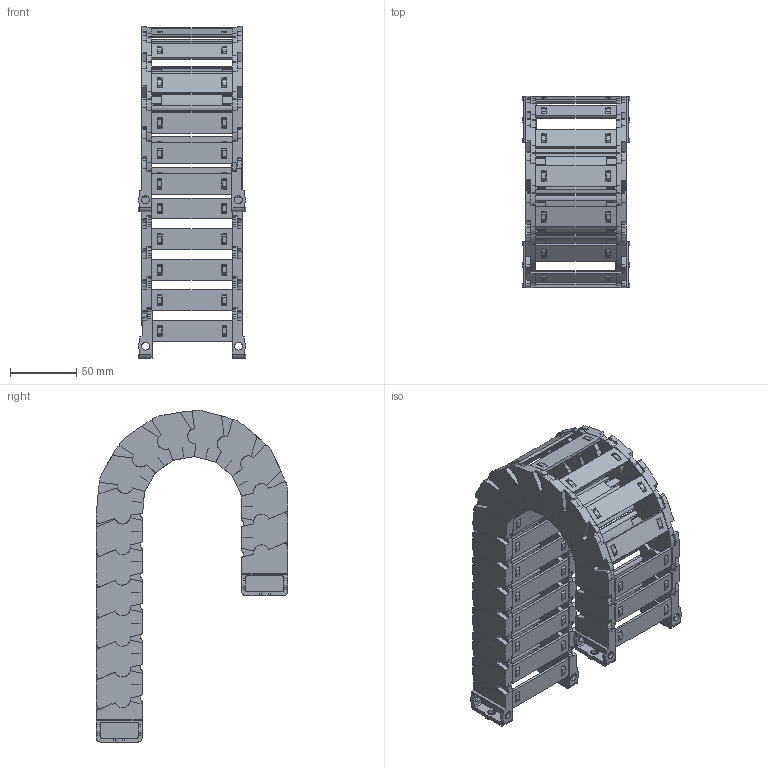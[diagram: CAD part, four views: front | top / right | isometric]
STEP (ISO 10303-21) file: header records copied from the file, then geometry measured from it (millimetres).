
FILE_DESCRIPTION((''),'2;1');
FILE_NAME('JY-25X60-R55_ASM','2022-05-07T10:10:49',('admin'),(''),'CREO PARAMETRIC BY PTC INC, 2021164','CREO PARAMETRIC BY PTC INC, 2021164','');
FILE_SCHEMA(('CONFIG_CONTROL_DESIGN','GEOMETRIC_VALIDATION_PROPERTIES_MIM'));
Length unit declared in the file: millimetre
Products named in the file (11): 25XL-L; 25-35XL-YP; 25XL-R; ASM0001_ASM; 25-LTT-A-L; 25-LTT-A-R; 25XL-LTT-A_ASM; 25-LTT-B-L; 25-LTT-B-R; 25XL-LTT-B_ASM; JY-25X60-R55_ASM
Assembly tree (29 placements, depth 3):
  JY-25X60-R55_ASM
    ASM0001_ASM  x15
      25XL-L
      25-35XL-YP
      25XL-R
    25XL-LTT-A_ASM
      25-LTT-A-L
      25-35XL-YP  x2
      25-LTT-A-R
    25XL-LTT-B_ASM
      25-LTT-B-L
      25-35XL-YP  x2
      25-LTT-B-R
Bounding box: 81.17 x 144.67 x 250.78 mm (x, y, z)
Volume: 293756.5 mm3; surface area: 219898.5 mm2
Topology: 68 solids, 83 shells, 3544 faces, 10581 edges, 7156 vertices
Faces by surface type: plane 2605, cylinder 909, cone 30
Entity records: 24023 total; most frequent: CARTESIAN_POINT 3114, DIRECTION 3009, ORIENTED_EDGE 2962, EDGE_CURVE 1483, PRESENTATION_STYLE_ASSIGNMENT 1413, STYLED_ITEM 1381, VECTOR 1053, LINE 1053
